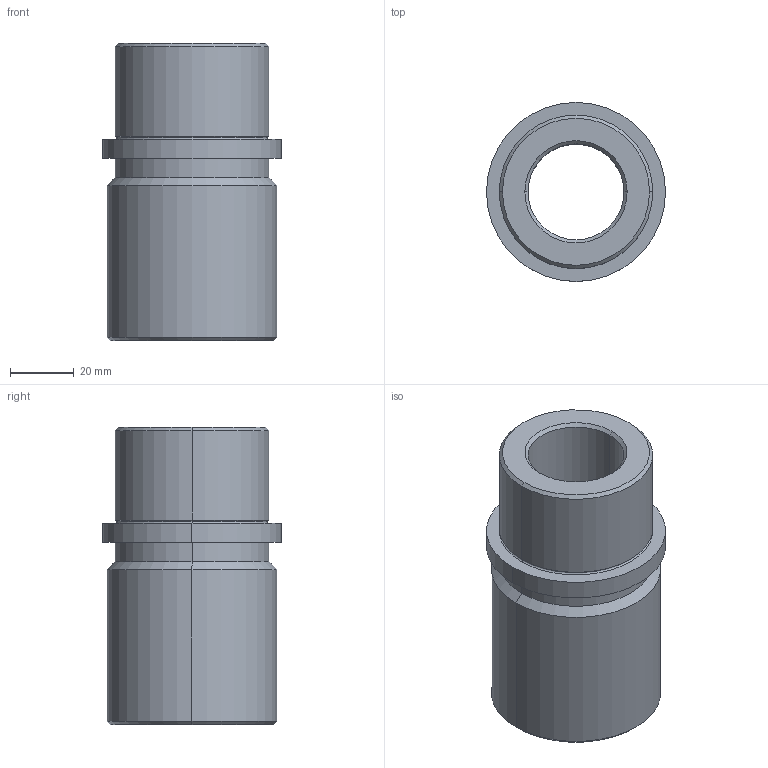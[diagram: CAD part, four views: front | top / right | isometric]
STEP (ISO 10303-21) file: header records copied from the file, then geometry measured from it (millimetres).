
FILE_DESCRIPTION (( 'STEP AP214' ), '1' );
FILE_NAME ('Casquillo SB500-30-93 b.STEP', '2019-01-10T13:31:40', ( '' ), ( '' ), 'SwSTEP 2.0', 'SolidWorks 2018', '' );
FILE_SCHEMA (( 'AUTOMOTIVE_DESIGN' ));
Length unit declared in the file: millimetre
Products named in the file (1): Casquillo SB500-30-93 b
Bounding box: 56 x 56 x 93 mm (x, y, z)
Volume: 125863.7 mm3; surface area: 27692.4 mm2
Topology: 1 solids, 1 shells, 40 faces, 80 edges, 44 vertices
Faces by surface type: cylinder 14, torus 12, cone 10, plane 4
Entity records: 1074 total; most frequent: DIRECTION 218, CARTESIAN_POINT 165, ORIENTED_EDGE 160, AXIS2_PLACEMENT_3D 97, EDGE_CURVE 80, CIRCLE 56, EDGE_LOOP 44, VERTEX_POINT 44
